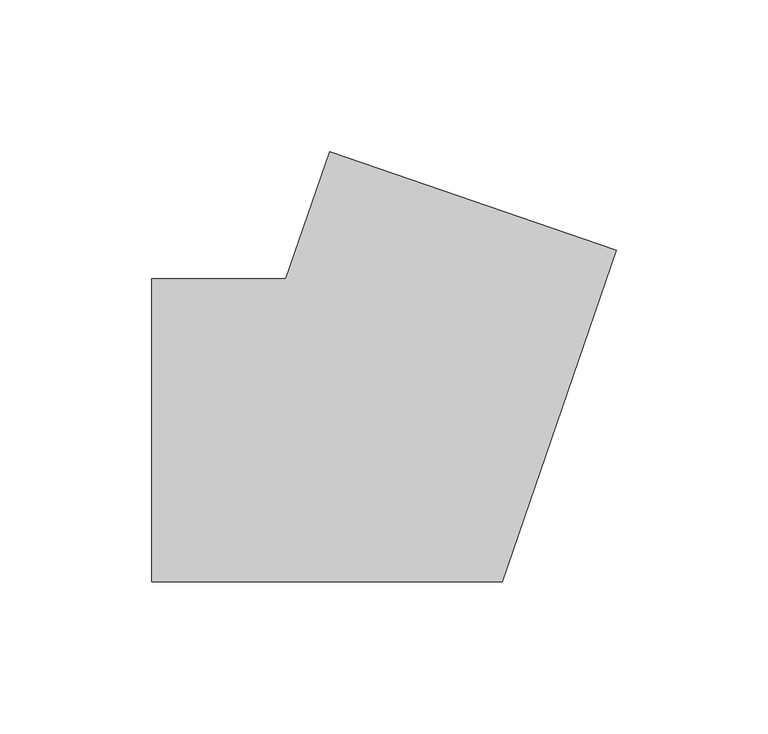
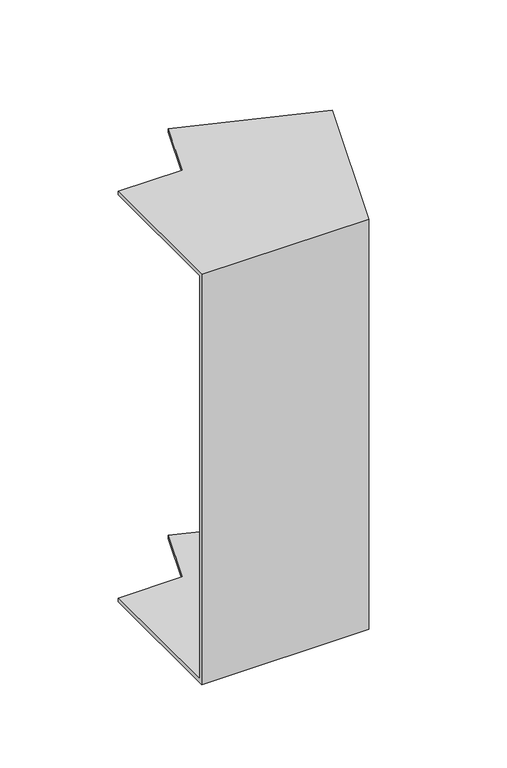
"""IFC4 building model written with IfcOpenShell, lengths in millimetres: cable carrier fitting geometry, ADSK_Поворот вертикальный внутренний_Минимальный размер : Неперфорированный."""

from ifc_helpers import new_model, si_unit, origin, place, context, project, spatial, faceted_brep, source, transform, mapped, element, save


def cable_carrier_fitting_74e421d1(model_context):
    return source(origin(), model_context, "Body", "Brep", [
        faceted_brep([(-79.8957721, -50.0, 150.0), (-79.8957721, 50.0, 150.0), (-79.8957721, 50.0, 147.46), (-79.8957721, -47.46, 147.46), (-79.8957721, -47.46, -147.46), (-79.8957721, 50.0, -147.46), (-79.8957721, 50.0, -150.0), (-79.8957721, -50.0, -150.0), (73.2874479, 59.2645289, 150.0), (73.2874479, 59.2645289, -150.0), (-21.2644097, 91.8213444, -150.0), (-21.2644097, 91.8213444, -147.46), (70.8858307, 60.091472, -147.46), (70.8858307, 60.091472, 147.46), (-21.2644097, 91.8213444, 147.46), (-21.2644097, 91.8213444, 150.0), (35.6646534, -50.0, 150.0), (-35.6646534, 50.0, 150.0), (-35.6646534, 50.0, 147.46), (33.852889, -47.46, 147.46), (33.852889, -47.46, -147.46), (-35.6646534, 50.0, -147.46), (-35.6646534, 50.0, -150.0), (35.6646534, -50.0, -150.0)], [[[0, 1, 2, 3, 4, 5, 6, 7]], [[8, 9, 10, 11, 12, 13, 14, 15]], [[1, 0, 16, 8, 15, 17]], [[2, 1, 17, 18]], [[3, 2, 18, 14, 13, 19]], [[4, 3, 19, 20]], [[5, 4, 20, 12, 11, 21]], [[6, 5, 21, 22]], [[7, 6, 22, 10, 9, 23]], [[0, 7, 23, 16]], [[18, 17, 15, 14]], [[20, 19, 13, 12]], [[22, 21, 11, 10]], [[16, 23, 9, 8]]]),
    ])


if __name__ == "__main__":
    model = new_model("IFC4")
    model_context = context("Model", 3, world=origin())
    ifc_project = project(units=[si_unit("LENGTHUNIT", "METRE", prefix="MILLI")], contexts=[model_context])
    site = spatial("IfcSite", under=ifc_project)
    building = spatial("IfcBuilding", under=site)
    placement = place(None, origin())
    cable_carrier_fitting_shape = cable_carrier_fitting_74e421d1(model_context)
    element("IfcCableCarrierFitting", 1, ObjectType="ADSK_Поворот вертикальный внутренний_Минимальный размер : Неперфорированный", at=placement, inside=building, context=model_context, shape_type="MappedRepresentation", body=[
        mapped(cable_carrier_fitting_shape, transform((0.0, 0.0, 0.0), x_axis=(1.0, 0.0, 0.0), y_axis=(0.0, 1.0, 0.0), z_axis=(0.0, 0.0, 1.0))),
    ])
    save(model, "model.ifc")
